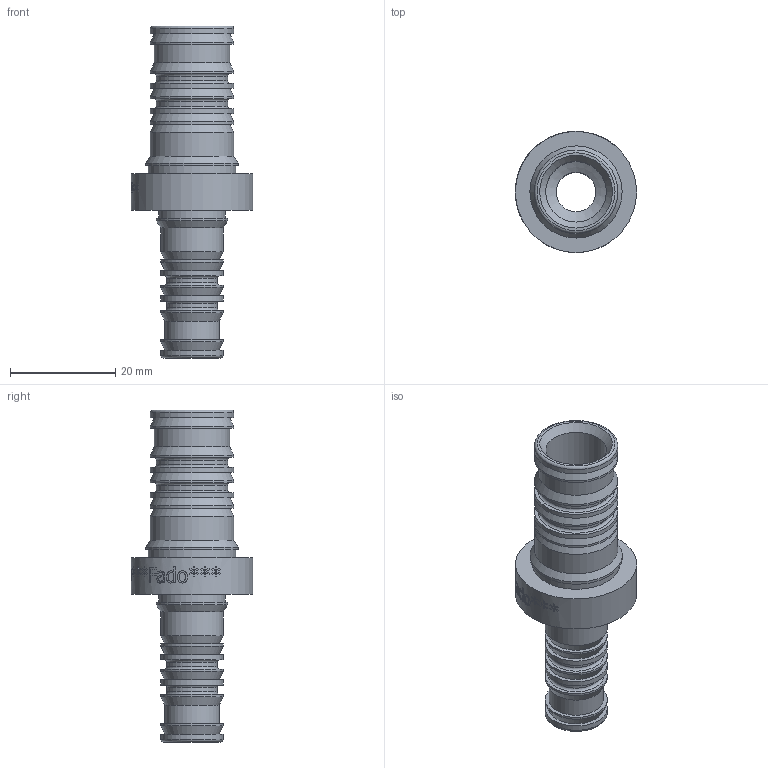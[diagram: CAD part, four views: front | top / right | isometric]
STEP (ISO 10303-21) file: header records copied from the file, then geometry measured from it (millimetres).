
FILE_DESCRIPTION(/* description */ (''),/* implementation_level */ '2;1');
FILE_NAME(/* name */ 'C:\Users\Doom\Desktop\Фадотех\Пресс\HDM02 20x16 Coupler 31.03.2020\HDM02 20x16 Coupler 31.03.2020.stp',/* time_stamp */ '2022-08-05T22:52:51+03:00',/* author */ ('Doom'),/* organization */ (''),/* preprocessor_version */ 'ST-DEVELOPER v18',/* originating_system */ 'Autodesk Inventor 2020',/* authorisation */ '');
FILE_SCHEMA (('AUTOMOTIVE_DESIGN { 1 0 10303 214 3 1 1 }'));
Length unit declared in the file: millimetre
Products named in the file (1): 16 Model 18.12.2019
Bounding box: 23.01 x 23.01 x 63 mm (x, y, z)
Volume: 6134.7 mm3; surface area: 6076.2 mm2
Topology: 1 solids, 1 shells, 334 faces, 934 edges, 642 vertices
Faces by surface type: bspline 184, plane 78, cylinder 47, cone 15, torus 10
Full cylindrical faces by diameter (mm): 7.5 x1, 9.5 x2, 10.3 x1, 11.5 x1, 11.8 x8, 12.6 x1, 13.5 x3, 14.3 x1, 15.8 x8, 16.6 x1, 17.5 x1, 23 x1
Entity records: 13884 total; most frequent: CARTESIAN_POINT 6195, ORIENTED_EDGE 1868, DIRECTION 1114, EDGE_CURVE 934, VERTEX_POINT 642, AXIS2_PLACEMENT_3D 397, EDGE_LOOP 376, B_SPLINE_CURVE_WITH_KNOTS 368
